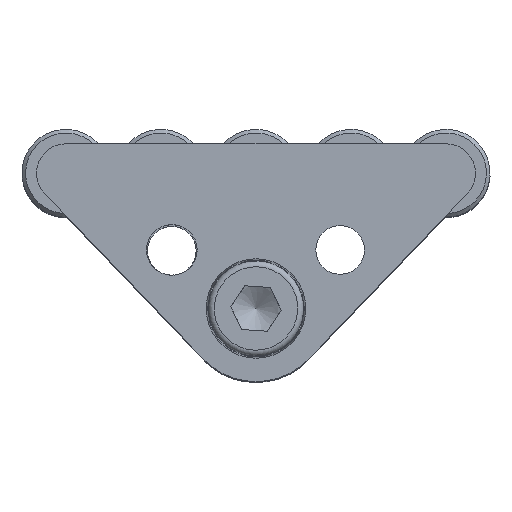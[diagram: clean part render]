
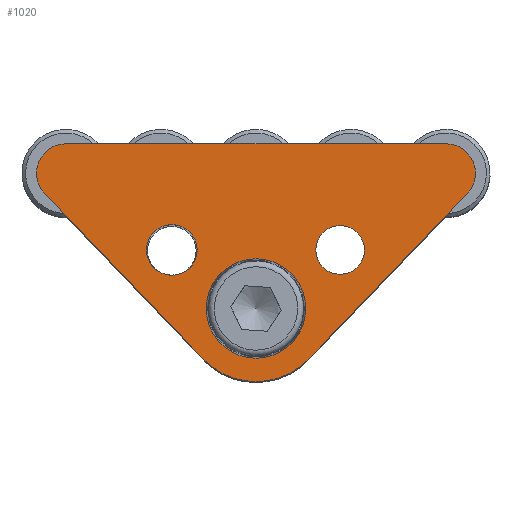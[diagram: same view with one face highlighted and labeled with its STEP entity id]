
A CAD part, top view. The second image highlights one B-rep face of the part: STEP entity #1020.
In plain terms, the highlighted planar face has unit normal (0, 0, 1).
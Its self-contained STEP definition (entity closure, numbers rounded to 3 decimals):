
#229=FACE_BOUND('',#362,.T.);
#230=FACE_BOUND('',#363,.T.);
#231=FACE_BOUND('',#364,.T.);
#251=PLANE('',#1248);
#292=FACE_OUTER_BOUND('',#361,.T.);
#361=EDGE_LOOP('',(#843,#844,#845,#846,#847,#848));
#362=EDGE_LOOP('',(#849));
#363=EDGE_LOOP('',(#850));
#364=EDGE_LOOP('',(#851));
#423=LINE('',#1824,#474);
#426=LINE('',#1832,#477);
#430=LINE('',#1840,#481);
#474=VECTOR('',#1463,10.);
#477=VECTOR('',#1472,10.);
#481=VECTOR('',#1482,10.);
#511=CIRCLE('',#1201,6.8);
#514=CIRCLE('',#1206,3.456);
#516=CIRCLE('',#1209,3.324);
#533=CIRCLE('',#1240,4.);
#534=CIRCLE('',#1243,4.);
#535=CIRCLE('',#1246,10.);
#568=VERTEX_POINT('',#1741);
#571=VERTEX_POINT('',#1750);
#573=VERTEX_POINT('',#1756);
#593=VERTEX_POINT('',#1817);
#594=VERTEX_POINT('',#1818);
#595=VERTEX_POINT('',#1823);
#596=VERTEX_POINT('',#1827);
#597=VERTEX_POINT('',#1831);
#598=VERTEX_POINT('',#1835);
#643=EDGE_CURVE('',#568,#568,#511,.T.);
#647=EDGE_CURVE('',#571,#571,#514,.T.);
#650=EDGE_CURVE('',#573,#573,#516,.T.);
#677=EDGE_CURVE('',#593,#594,#533,.T.);
#680=EDGE_CURVE('',#594,#595,#423,.T.);
#682=EDGE_CURVE('',#595,#596,#534,.T.);
#684=EDGE_CURVE('',#596,#597,#426,.T.);
#686=EDGE_CURVE('',#597,#598,#535,.T.);
#689=EDGE_CURVE('',#598,#593,#430,.T.);
#843=ORIENTED_EDGE('',*,*,#677,.F.);
#844=ORIENTED_EDGE('',*,*,#689,.F.);
#845=ORIENTED_EDGE('',*,*,#686,.F.);
#846=ORIENTED_EDGE('',*,*,#684,.F.);
#847=ORIENTED_EDGE('',*,*,#682,.F.);
#848=ORIENTED_EDGE('',*,*,#680,.F.);
#849=ORIENTED_EDGE('',*,*,#643,.T.);
#850=ORIENTED_EDGE('',*,*,#647,.T.);
#851=ORIENTED_EDGE('',*,*,#650,.T.);
#1020=ADVANCED_FACE('',(#292,#229,#230,#231),#251,.T.);
#1201=AXIS2_PLACEMENT_3D('',#1742,#1367,#1368);
#1206=AXIS2_PLACEMENT_3D('',#1751,#1378,#1379);
#1209=AXIS2_PLACEMENT_3D('',#1757,#1385,#1386);
#1240=AXIS2_PLACEMENT_3D('',#1819,#1457,#1458);
#1243=AXIS2_PLACEMENT_3D('',#1828,#1467,#1468);
#1246=AXIS2_PLACEMENT_3D('',#1836,#1476,#1477);
#1248=AXIS2_PLACEMENT_3D('',#1841,#1483,#1484);
#1367=DIRECTION('center_axis',(0.,0.,
-1.));
#1368=DIRECTION('ref_axis',(-1.,0.,0.));
#1378=DIRECTION('center_axis',(0.,0.,
-1.));
#1379=DIRECTION('ref_axis',(1.,0.,0.));
#1385=DIRECTION('center_axis',(0.,0.,
-1.));
#1386=DIRECTION('ref_axis',(1.,0.,0.));
#1457=DIRECTION('center_axis',(0.,0.,-1.));
#1458=DIRECTION('ref_axis',(0.,-1.,0.));
#1463=DIRECTION('',(1.,0.,0.));
#1467=DIRECTION('center_axis',(0.,0.,-1.));
#1468=DIRECTION('ref_axis',(-0.723,0.691,0.));
#1472=DIRECTION('',(-0.691,-0.723,0.));
#1476=DIRECTION('center_axis',(0.,0.,-1.));
#1477=DIRECTION('ref_axis',(0.723,0.691,0.));
#1482=DIRECTION('',(-0.691,0.723,0.));
#1483=DIRECTION('center_axis',(0.,0.,
1.));
#1484=DIRECTION('ref_axis',(1.,0.,0.));
#1741=CARTESIAN_POINT('',(5.8,-7.5,4.));
#1742=CARTESIAN_POINT('Origin',(-1.,-7.5,4.));
#1750=CARTESIAN_POINT('',(-15.956,0.5,4.));
#1751=CARTESIAN_POINT('Origin',(-12.5,0.5,4.));
#1756=CARTESIAN_POINT('',(7.177,0.5,4.));
#1757=CARTESIAN_POINT('Origin',(10.5,0.5,4.));
#1817=CARTESIAN_POINT('',(-29.89,8.235,4.));
#1818=CARTESIAN_POINT('',(-27.,15.,4.));
#1819=CARTESIAN_POINT('Origin',(-27.,11.,4.));
#1823=CARTESIAN_POINT('',(25.,15.,4.));
#1824=CARTESIAN_POINT('',(-27.,15.,4.));
#1827=CARTESIAN_POINT('',(27.89,8.235,4.));
#1828=CARTESIAN_POINT('Origin',(25.,11.,4.));
#1831=CARTESIAN_POINT('',(6.226,-14.412,4.));
#1832=CARTESIAN_POINT('',(27.89,8.235,4.));
#1835=CARTESIAN_POINT('',(-8.226,-14.412,4.));
#1836=CARTESIAN_POINT('Origin',(-1.,-7.5,4.));
#1840=CARTESIAN_POINT('',(-8.226,-14.412,4.));
#1841=CARTESIAN_POINT('Origin',(-1.,3.688,4.));
